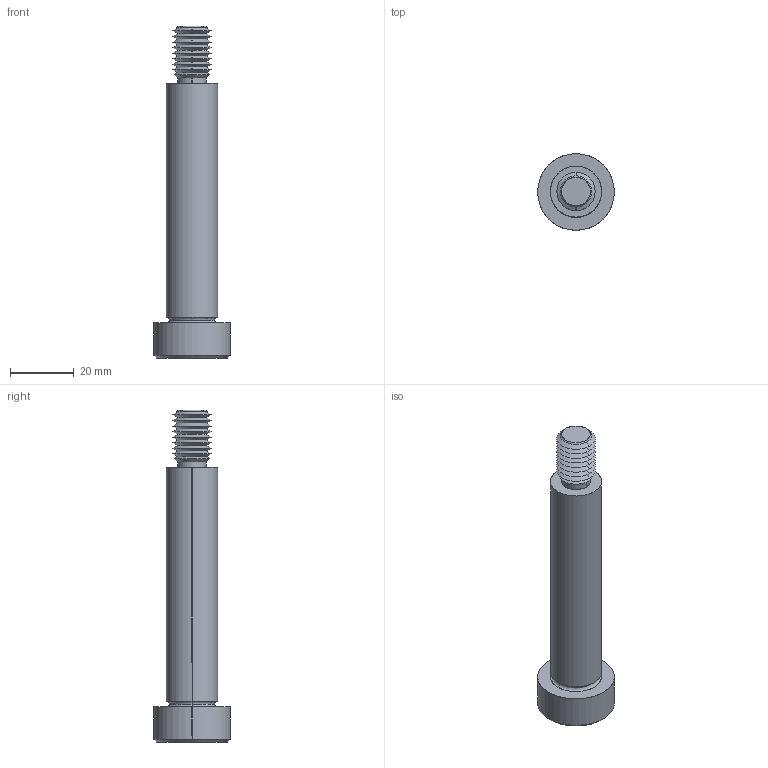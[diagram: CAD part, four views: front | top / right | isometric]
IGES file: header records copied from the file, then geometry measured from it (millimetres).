
Start section: SolidWorks IGES file using analytic representation for surfaces
Global section: file name: C:\Users\IanO\Documents\Temp Folder\GENERAL\SCREW REVISION\P0130_v2\P0130.T5_v2_20220106_IGES\P0130.160-075-T5.igs; native system: SolidWorks 2019; preprocessor: SolidWorks 2019; author: IanO; date: 220106.225706; units: millimetre
Bounding box: 24 x 24 x 104 mm (x, y, z)
Surface area: 6816.5 mm2 (no closed solid volume)
Topology: 0 solids, 0 shells, 76 faces, 588 edges, 586 vertices
Faces by surface type: revolution 56, bspline 20
